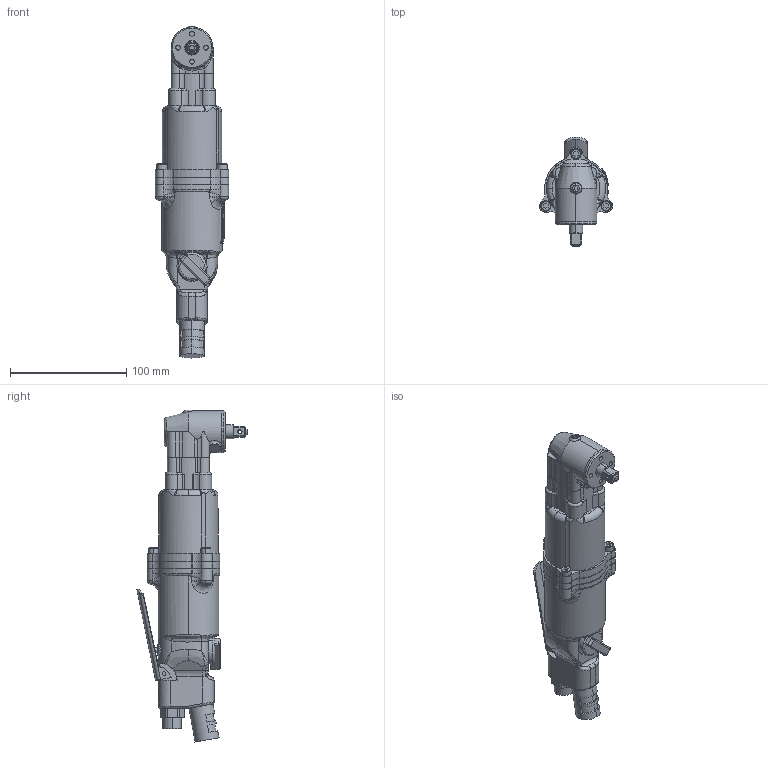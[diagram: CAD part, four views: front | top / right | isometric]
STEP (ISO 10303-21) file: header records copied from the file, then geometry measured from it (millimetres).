
FILE_DESCRIPTION (( 'STEP AP203' ), '1' );
FILE_NAME ('UX-800C.STEP', '2007-04-20T05:58:22', ( ' ' ), ( ' ' ), 'SwSTEP 2.0', 'SolidWorks 2003240', '' );
FILE_SCHEMA (( 'CONFIG_CONTROL_DESIGN' ));
Length unit declared in the file: millimetre
Products named in the file (10): 1794417_UX-800C_蹬怮椔; 1794398_UX-800C_蹬怮椔; 5001071_UX-800C_蹬怮椔; UX-800C; 0204301_UX-800C_蹬怮椔; 1794886_UX-800C_蹬怮椔; 1800276_UX-800C_蹬怮椔; 1800256_UX-800C_蹬怮椔; 0202121_UX-800C_蹬怮椔; PIN_UX-800C_蹬怮椔
Assembly tree (9 placements, depth 2):
  UX-800C
    0204301_UX-800C_蹬怮椔
    1794886_UX-800C_蹬怮椔
    0202121_UX-800C_蹬怮椔
    1800276_UX-800C_蹬怮椔
    5001071_UX-800C_蹬怮椔
    1794398_UX-800C_蹬怮椔
    PIN_UX-800C_蹬怮椔
    1794417_UX-800C_蹬怮椔
    1800256_UX-800C_蹬怮椔
Bounding box: 62.96 x 94.92 x 285.81 mm (x, y, z)
Volume: 474375.3 mm3; surface area: 71582.7 mm2
Topology: 9 solids, 9 shells, 946 faces, 2477 edges, 1580 vertices
Faces by surface type: cylinder 364, plane 304, bspline 191, torus 55, cone 25, sphere 7
Entity records: 101229 total; most frequent: CARTESIAN_POINT 78504, ORIENTED_EDGE 4902, DIRECTION 4017, EDGE_CURVE 2451, VERTEX_POINT 1580, AXIS2_PLACEMENT_3D 1536, EDGE_LOOP 1019, ADVANCED_FACE 946
